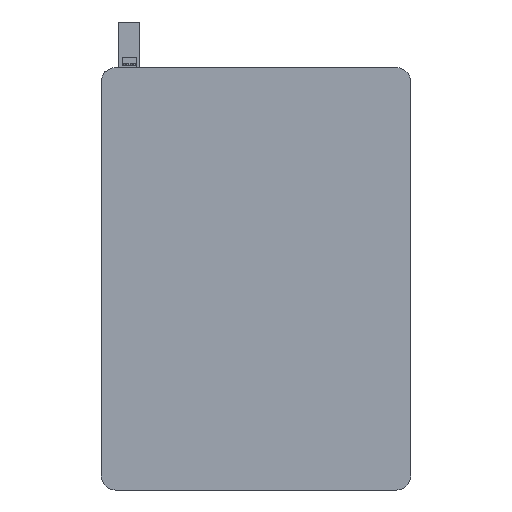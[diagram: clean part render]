
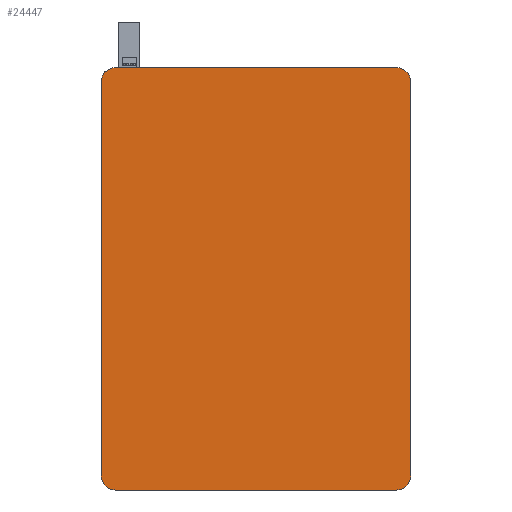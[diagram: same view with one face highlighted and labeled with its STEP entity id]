
A CAD part, front view. The second image highlights one B-rep face of the part: STEP entity #24447.
In plain terms, the highlighted planar face has unit normal (0, -1, 0).
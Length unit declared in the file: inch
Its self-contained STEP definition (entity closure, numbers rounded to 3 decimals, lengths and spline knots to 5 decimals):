
#1599 = ORIENTED_EDGE ( 'NONE', *, *, #49075, .T. ) ;
#2816 = LINE ( 'NONE', #37069, #43866 ) ;
#3389 = VECTOR ( 'NONE', #44751, 39.37008 ) ;
#4128 = LINE ( 'NONE', #25083, #5978 ) ;
#4667 = ORIENTED_EDGE ( 'NONE', *, *, #47009, .T. ) ;
#5488 = DIRECTION ( 'NONE',  ( 0., -1., 0. ) ) ;
#5831 = AXIS2_PLACEMENT_3D ( 'NONE', #13622, #37134, #33280 ) ;
#5978 = VECTOR ( 'NONE', #44657, 39.37008 ) ;
#6422 = DIRECTION ( 'NONE',  ( -1., 0., 0. ) ) ;
#7213 = CARTESIAN_POINT ( 'NONE',  ( 10., 0., 15. ) ) ;
#7291 = ORIENTED_EDGE ( 'NONE', *, *, #15393, .F. ) ;
#8240 = CARTESIAN_POINT ( 'NONE',  ( 11., 0., -14. ) ) ;
#8790 = CARTESIAN_POINT ( 'NONE',  ( 0., 0., 0. ) ) ;
#8889 = EDGE_CURVE ( 'NONE', #43186, #41987, #26920, .T. ) ;
#9126 = DIRECTION ( 'NONE',  ( 0., 1., 0. ) ) ;
#9412 = EDGE_CURVE ( 'NONE', #30351, #14311, #43142, .T. ) ;
#12347 = EDGE_CURVE ( 'NONE', #43186, #50137, #17963, .T. ) ;
#12948 = CARTESIAN_POINT ( 'NONE',  ( 11., 0., 14. ) ) ;
#12989 = EDGE_LOOP ( 'NONE', ( #20966, #49048, #7291, #31736, #44503, #1599, #39442, #4667 ) ) ;
#13120 = CIRCLE ( 'NONE', #5831, 1. ) ;
#13622 = CARTESIAN_POINT ( 'NONE',  ( -10., 0., 14. ) ) ;
#14311 = VERTEX_POINT ( 'NONE', #8240 ) ;
#15155 = CARTESIAN_POINT ( 'NONE',  ( -10., 0., -14. ) ) ;
#15393 = EDGE_CURVE ( 'NONE', #30351, #50137, #2816, .T. ) ;
#15440 = DIRECTION ( 'NONE',  ( 0., -1., 0. ) ) ;
#17279 = PLANE ( 'NONE',  #43080 ) ;
#17963 = CIRCLE ( 'NONE', #33875, 1. ) ;
#18829 = AXIS2_PLACEMENT_3D ( 'NONE', #25575, #5488, #41641 ) ;
#19199 = DIRECTION ( 'NONE',  ( 0., -1., 0. ) ) ;
#20966 = ORIENTED_EDGE ( 'NONE', *, *, #8889, .F. ) ;
#23432 = DIRECTION ( 'NONE',  ( 0., 0., 1. ) ) ;
#24447 = ADVANCED_FACE ( 'NONE', ( #34872 ), #17279, .F. ) ;
#25083 = CARTESIAN_POINT ( 'NONE',  ( -11., 0., 15. ) ) ;
#25575 = CARTESIAN_POINT ( 'NONE',  ( 10., 0., -14. ) ) ;
#26920 = LINE ( 'NONE', #29284, #3389 ) ;
#27058 = LINE ( 'NONE', #32916, #30803 ) ;
#27541 = VERTEX_POINT ( 'NONE', #45726 ) ;
#29087 = AXIS2_PLACEMENT_3D ( 'NONE', #47491, #15440, #23432 ) ;
#29284 = CARTESIAN_POINT ( 'NONE',  ( -11., 0., -15. ) ) ;
#29511 = VERTEX_POINT ( 'NONE', #7213 ) ;
#30351 = VERTEX_POINT ( 'NONE', #32207 ) ;
#30494 = EDGE_CURVE ( 'NONE', #27541, #29511, #4128, .T. ) ;
#30803 = VECTOR ( 'NONE', #36934, 39.37008 ) ;
#30824 = CARTESIAN_POINT ( 'NONE',  ( -11., 0., 14. ) ) ;
#31736 = ORIENTED_EDGE ( 'NONE', *, *, #9412, .T. ) ;
#32063 = CARTESIAN_POINT ( 'NONE',  ( -10., 0., -15. ) ) ;
#32207 = CARTESIAN_POINT ( 'NONE',  ( 10., 0., -15. ) ) ;
#32916 = CARTESIAN_POINT ( 'NONE',  ( 11., 0., -15. ) ) ;
#33280 = DIRECTION ( 'NONE',  ( 0., 0., 1. ) ) ;
#33875 = AXIS2_PLACEMENT_3D ( 'NONE', #15155, #19199, #47063 ) ;
#34872 = FACE_OUTER_BOUND ( 'NONE', #12989, .T. ) ;
#36934 = DIRECTION ( 'NONE',  ( 0., 0., -1. ) ) ;
#37069 = CARTESIAN_POINT ( 'NONE',  ( -11., 0., -15. ) ) ;
#37134 = DIRECTION ( 'NONE',  ( 0., -1., 0. ) ) ;
#38885 = EDGE_CURVE ( 'NONE', #47019, #14311, #27058, .T. ) ;
#39442 = ORIENTED_EDGE ( 'NONE', *, *, #30494, .F. ) ;
#41641 = DIRECTION ( 'NONE',  ( 0., 0., 1. ) ) ;
#41987 = VERTEX_POINT ( 'NONE', #30824 ) ;
#43080 = AXIS2_PLACEMENT_3D ( 'NONE', #8790, #9126, #49138 ) ;
#43142 = CIRCLE ( 'NONE', #18829, 1. ) ;
#43186 = VERTEX_POINT ( 'NONE', #43957 ) ;
#43866 = VECTOR ( 'NONE', #6422, 39.37008 ) ;
#43957 = CARTESIAN_POINT ( 'NONE',  ( -11., 0., -14. ) ) ;
#44503 = ORIENTED_EDGE ( 'NONE', *, *, #38885, .F. ) ;
#44657 = DIRECTION ( 'NONE',  ( 1., 0., 0. ) ) ;
#44751 = DIRECTION ( 'NONE',  ( 0., 0., 1. ) ) ;
#45726 = CARTESIAN_POINT ( 'NONE',  ( -10., 0., 15. ) ) ;
#45957 = CIRCLE ( 'NONE', #29087, 1. ) ;
#47009 = EDGE_CURVE ( 'NONE', #27541, #41987, #13120, .T. ) ;
#47019 = VERTEX_POINT ( 'NONE', #12948 ) ;
#47063 = DIRECTION ( 'NONE',  ( 0., 0., 1. ) ) ;
#47491 = CARTESIAN_POINT ( 'NONE',  ( 10., 0., 14. ) ) ;
#49048 = ORIENTED_EDGE ( 'NONE', *, *, #12347, .T. ) ;
#49075 = EDGE_CURVE ( 'NONE', #47019, #29511, #45957, .T. ) ;
#49138 = DIRECTION ( 'NONE',  ( 0., 0., 1. ) ) ;
#50137 = VERTEX_POINT ( 'NONE', #32063 ) ;
